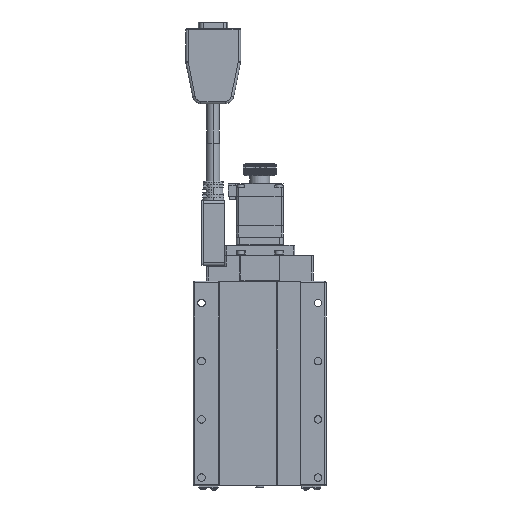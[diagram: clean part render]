
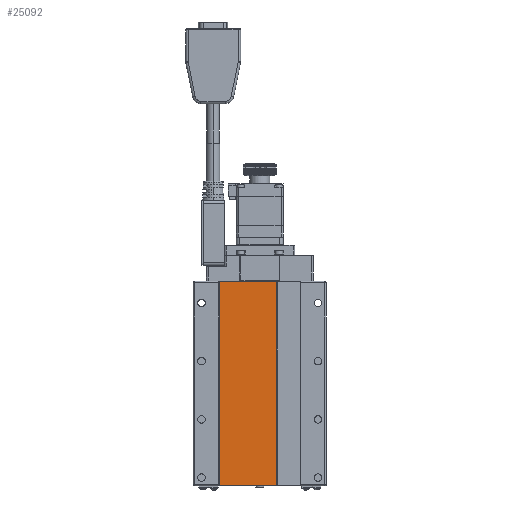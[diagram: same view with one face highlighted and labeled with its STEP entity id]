
A CAD part, front view. The second image highlights one B-rep face of the part: STEP entity #25092.
In plain terms, the highlighted planar face has unit normal (0, -1, 0).
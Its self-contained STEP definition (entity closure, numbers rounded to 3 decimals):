
#359 = FACE_OUTER_BOUND ( 'NONE', #85715, .T. ) ;
#468 = CARTESIAN_POINT ( 'NONE',  ( 10.3, 0.3, 122.8 ) ) ;
#2934 = CARTESIAN_POINT ( 'NONE',  ( -24.3, 0.3, 0.2 ) ) ;
#4418 = CARTESIAN_POINT ( 'NONE',  ( 10.3, 0.3, 0.2 ) ) ;
#5597 = LINE ( 'NONE', #31599, #84517 ) ;
#6930 = DIRECTION ( 'NONE',  ( -1., 0., 0. ) ) ;
#8668 = ORIENTED_EDGE ( 'NONE', *, *, #10638, .T. ) ;
#9004 = DIRECTION ( 'NONE',  ( -1., 0., 0. ) ) ;
#10638 = EDGE_CURVE ( 'NONE', #56124, #58593, #60919, .T. ) ;
#11014 = VECTOR ( 'NONE', #44096, 1000. ) ;
#18318 = CARTESIAN_POINT ( 'NONE',  ( -24.3, 0.3, 122.8 ) ) ;
#20845 = CARTESIAN_POINT ( 'NONE',  ( -24.3, 0.3, 0.2 ) ) ;
#21211 = EDGE_CURVE ( 'NONE', #104711, #45474, #56762, .T. ) ;
#23684 = PLANE ( 'NONE',  #34308 ) ;
#24566 = DIRECTION ( 'NONE',  ( 1., 0., 0. ) ) ;
#25092 = ADVANCED_FACE ( 'NONE', ( #359 ), #23684, .F. ) ;
#30183 = CARTESIAN_POINT ( 'NONE',  ( 10.3, 0.3, 0.2 ) ) ;
#31599 = CARTESIAN_POINT ( 'NONE',  ( -24.3, 0.3, 0.2 ) ) ;
#32343 = DIRECTION ( 'NONE',  ( 0., 0., 1. ) ) ;
#33399 = CARTESIAN_POINT ( 'NONE',  ( -24.3, 0.3, 122.8 ) ) ;
#34308 = AXIS2_PLACEMENT_3D ( 'NONE', #33399, #81647, #9004 ) ;
#44096 = DIRECTION ( 'NONE',  ( 0., 0., -1. ) ) ;
#45474 = VERTEX_POINT ( 'NONE', #468 ) ;
#56124 = VERTEX_POINT ( 'NONE', #18318 ) ;
#56762 = LINE ( 'NONE', #30183, #84063 ) ;
#58593 = VERTEX_POINT ( 'NONE', #20845 ) ;
#60919 = LINE ( 'NONE', #2934, #11014 ) ;
#63151 = ORIENTED_EDGE ( 'NONE', *, *, #77395, .T. ) ;
#71418 = LINE ( 'NONE', #81157, #99290 ) ;
#77395 = EDGE_CURVE ( 'NONE', #58593, #104711, #5597, .T. ) ;
#78114 = ORIENTED_EDGE ( 'NONE', *, *, #21211, .T. ) ;
#81157 = CARTESIAN_POINT ( 'NONE',  ( -24.3, 0.3, 122.8 ) ) ;
#81647 = DIRECTION ( 'NONE',  ( 0., 1., 0. ) ) ;
#84063 = VECTOR ( 'NONE', #32343, 1000. ) ;
#84517 = VECTOR ( 'NONE', #24566, 1000. ) ;
#85715 = EDGE_LOOP ( 'NONE', ( #8668, #63151, #78114, #91543 ) ) ;
#91543 = ORIENTED_EDGE ( 'NONE', *, *, #102338, .T. ) ;
#99290 = VECTOR ( 'NONE', #6930, 1000. ) ;
#102338 = EDGE_CURVE ( 'NONE', #45474, #56124, #71418, .T. ) ;
#104711 = VERTEX_POINT ( 'NONE', #4418 ) ;
